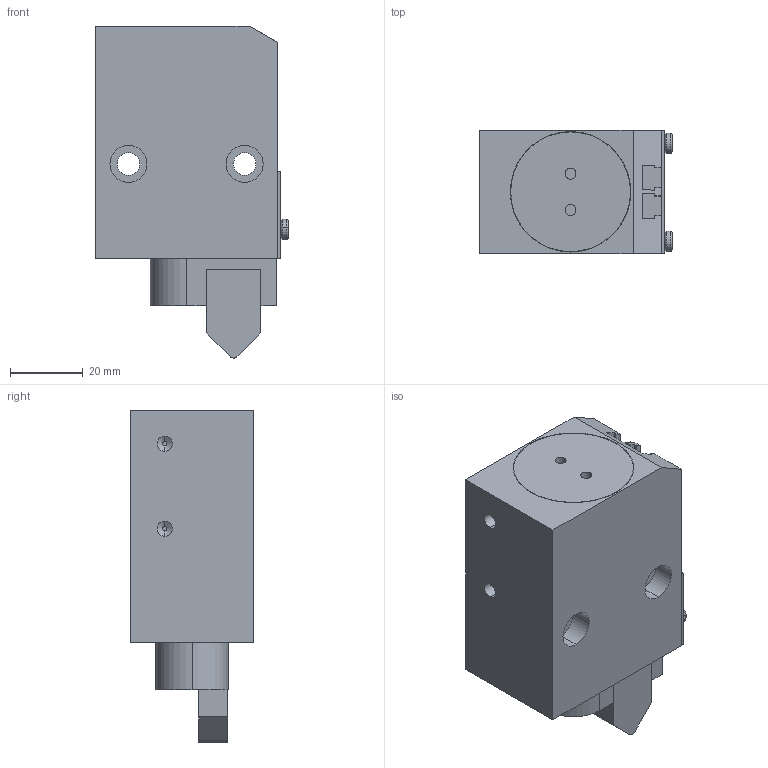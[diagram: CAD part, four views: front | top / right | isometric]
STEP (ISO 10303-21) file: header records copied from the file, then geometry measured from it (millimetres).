
FILE_DESCRIPTION (( 'STEP AP203' ), '1' );
FILE_NAME ('D0-200-13-EW-E-W90_Grundstellung.STEP', '2019-01-11T11:30:11', ( '' ), ( '' ), 'SwSTEP 2.0', 'SolidWorks 2017', '' );
FILE_SCHEMA (( 'CONFIG_CONTROL_DESIGN' ));
Length unit declared in the file: millimetre
Products named in the file (1): D0-200-13-EW-E-W90_Grundstellung
Bounding box: 53 x 34 x 91.45 mm (x, y, z)
Volume: 108259.7 mm3; surface area: 26756.7 mm2
Topology: 6 solids, 6 shells, 184 faces, 428 edges, 276 vertices
Faces by surface type: plane 99, cylinder 65, cone 14, torus 6
Entity records: 5329 total; most frequent: DIRECTION 952, CARTESIAN_POINT 889, ORIENTED_EDGE 856, EDGE_CURVE 428, AXIS2_PLACEMENT_3D 339, VERTEX_POINT 276, LINE 274, VECTOR 274
